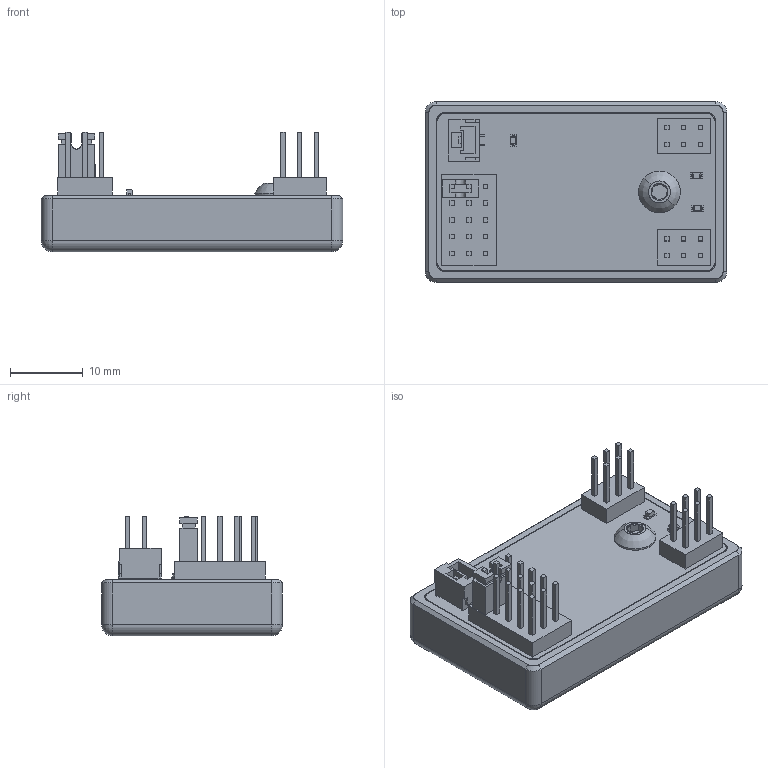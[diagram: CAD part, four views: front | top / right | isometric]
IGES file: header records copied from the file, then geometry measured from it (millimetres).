
Start section: SolidWorks IGES file using analytic representation for surfaces
Global section: file name: C:\Users\Agamemnon\Dropbox\BR-Engineering\PROJECTS\COMMANDER\MODELS\RELEASES\PUBLIC\CMDR-ASM-THRUSTER-COMMANDER-R1\CMDR-ASM-THRUSTER-COMMANDER-R1.IGS; native system: SolidWorks 2016; preprocessor: SolidWorks 2016; author: Agamemnon; date: 180628.140855; units: metre
Bounding box: 41.3 x 24.79 x 16.35 mm (x, y, z)
Surface area: 6916.1 mm2 (no closed solid volume)
Topology: 0 solids, 0 shells, 460 faces, 3748 edges, 3744 vertices
Faces by surface type: bspline 366, revolution 94
